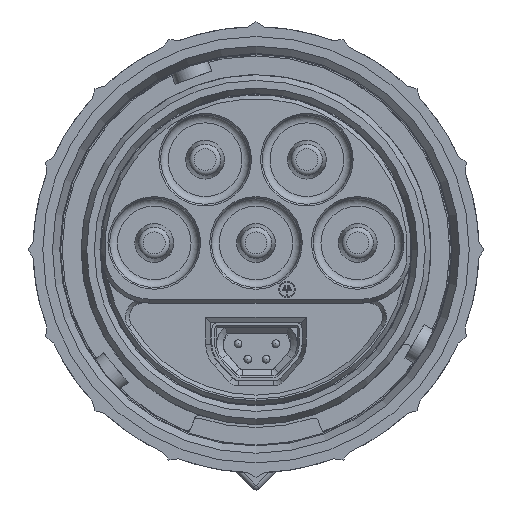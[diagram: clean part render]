
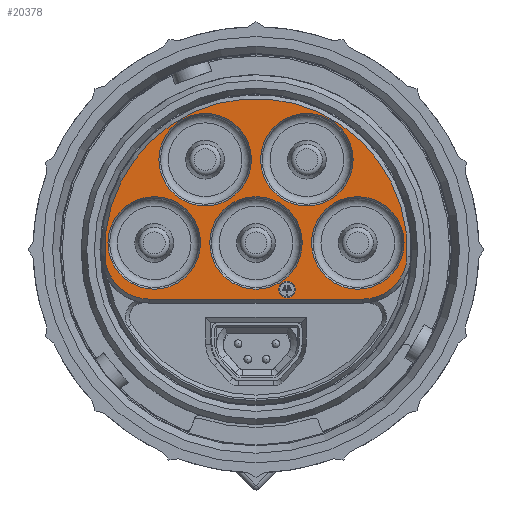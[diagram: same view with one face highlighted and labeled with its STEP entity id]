
A CAD part, front view. The second image highlights one B-rep face of the part: STEP entity #20378.
In plain terms, the highlighted planar face has unit normal (0, -1, 0).
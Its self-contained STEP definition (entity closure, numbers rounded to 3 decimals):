
#539=FACE_BOUND('',#6916,.T.);
#540=FACE_BOUND('',#6917,.T.);
#541=FACE_BOUND('',#6918,.T.);
#542=FACE_BOUND('',#6919,.T.);
#543=FACE_BOUND('',#6920,.T.);
#544=FACE_BOUND('',#6921,.T.);
#2643=LINE('',#35720,#4786);
#4786=VECTOR('',#26263,10.);
#5827=FACE_OUTER_BOUND('',#6915,.T.);
#6915=EDGE_LOOP('',(#17238,#17239,#17240,#17241));
#6916=EDGE_LOOP('',(#17242));
#6917=EDGE_LOOP('',(#17243));
#6918=EDGE_LOOP('',(#17244));
#6919=EDGE_LOOP('',(#17245));
#6920=EDGE_LOOP('',(#17246));
#6921=EDGE_LOOP('',(#17247));
#7292=CIRCLE('',#21632,0.85);
#7294=CIRCLE('',#21650,15.596);
#7295=CIRCLE('',#21651,4.596);
#7296=CIRCLE('',#21652,4.596);
#7297=CIRCLE('',#21653,4.773);
#7298=CIRCLE('',#21654,4.773);
#7299=CIRCLE('',#21655,4.773);
#7300=CIRCLE('',#21656,4.773);
#7301=CIRCLE('',#21657,4.773);
#9126=VERTEX_POINT('',#35633);
#9152=VERTEX_POINT('',#35714);
#9153=VERTEX_POINT('',#35715);
#9154=VERTEX_POINT('',#35717);
#9155=VERTEX_POINT('',#35719);
#9156=VERTEX_POINT('',#35722);
#9157=VERTEX_POINT('',#35724);
#9158=VERTEX_POINT('',#35726);
#9159=VERTEX_POINT('',#35728);
#9160=VERTEX_POINT('',#35730);
#11838=EDGE_CURVE('',#9126,#9126,#7292,.T.);
#11877=EDGE_CURVE('',#9152,#9153,#7294,.T.);
#11878=EDGE_CURVE('',#9154,#9152,#7295,.T.);
#11879=EDGE_CURVE('',#9155,#9154,#2643,.T.);
#11880=EDGE_CURVE('',#9153,#9155,#7296,.T.);
#11881=EDGE_CURVE('',#9156,#9156,#7297,.T.);
#11882=EDGE_CURVE('',#9157,#9157,#7298,.T.);
#11883=EDGE_CURVE('',#9158,#9158,#7299,.T.);
#11884=EDGE_CURVE('',#9159,#9159,#7300,.T.);
#11885=EDGE_CURVE('',#9160,#9160,#7301,.T.);
#17238=ORIENTED_EDGE('',*,*,#11877,.F.);
#17239=ORIENTED_EDGE('',*,*,#11878,.F.);
#17240=ORIENTED_EDGE('',*,*,#11879,.F.);
#17241=ORIENTED_EDGE('',*,*,#11880,.F.);
#17242=ORIENTED_EDGE('',*,*,#11881,.F.);
#17243=ORIENTED_EDGE('',*,*,#11882,.F.);
#17244=ORIENTED_EDGE('',*,*,#11883,.F.);
#17245=ORIENTED_EDGE('',*,*,#11884,.F.);
#17246=ORIENTED_EDGE('',*,*,#11885,.F.);
#17247=ORIENTED_EDGE('',*,*,#11838,.T.);
#18352=PLANE('',#21649);
#20378=ADVANCED_FACE('',(#5827,#539,#540,#541,#542,#543,#544),#18352,.T.);
#21632=AXIS2_PLACEMENT_3D('',#35634,#26186,#26187);
#21649=AXIS2_PLACEMENT_3D('',#35713,#26257,#26258);
#21650=AXIS2_PLACEMENT_3D('',#35716,#26259,#26260);
#21651=AXIS2_PLACEMENT_3D('',#35718,#26261,#26262);
#21652=AXIS2_PLACEMENT_3D('',#35721,#26264,#26265);
#21653=AXIS2_PLACEMENT_3D('',#35723,#26266,#26267);
#21654=AXIS2_PLACEMENT_3D('',#35725,#26268,#26269);
#21655=AXIS2_PLACEMENT_3D('',#35727,#26270,#26271);
#21656=AXIS2_PLACEMENT_3D('',#35729,#26272,#26273);
#21657=AXIS2_PLACEMENT_3D('',#35731,#26274,#26275);
#26186=DIRECTION('center_axis',(0.,1.,0.));
#26187=DIRECTION('ref_axis',(1.,0.,0.));
#26257=DIRECTION('center_axis',(0.,-1.,0.));
#26258=DIRECTION('ref_axis',(-1.,0.,0.));
#26259=DIRECTION('center_axis',(0.,1.,0.));
#26260=DIRECTION('ref_axis',(1.,0.,0.));
#26261=DIRECTION('center_axis',(0.,1.,0.));
#26262=DIRECTION('ref_axis',(-0.691,0.,-0.723));
#26263=DIRECTION('',(-1.,0.,0.));
#26264=DIRECTION('center_axis',(0.,1.,0.));
#26265=DIRECTION('ref_axis',(0.691,0.,-0.723));
#26266=DIRECTION('center_axis',(0.,-1.,0.));
#26267=DIRECTION('ref_axis',(1.,0.,0.));
#26268=DIRECTION('center_axis',(0.,-1.,0.));
#26269=DIRECTION('ref_axis',(1.,0.,0.));
#26270=DIRECTION('center_axis',(0.,-1.,0.));
#26271=DIRECTION('ref_axis',(1.,0.,0.));
#26272=DIRECTION('center_axis',(0.,-1.,0.));
#26273=DIRECTION('ref_axis',(1.,0.,0.));
#26274=DIRECTION('center_axis',(0.,-1.,0.));
#26275=DIRECTION('ref_axis',(1.,0.,0.));
#35633=CARTESIAN_POINT('',(2.35,-39.3,-4.1));
#35634=CARTESIAN_POINT('Origin',(3.2,-39.3,-4.1));
#35713=CARTESIAN_POINT('Origin',(0.,-39.3,0.));
#35714=CARTESIAN_POINT('',(-15.58,-39.3,-0.709));
#35715=CARTESIAN_POINT('',(15.58,-39.3,-0.709));
#35716=CARTESIAN_POINT('Origin',(0.,-39.3,0.));
#35717=CARTESIAN_POINT('',(-10.989,-39.3,-5.096));
#35718=CARTESIAN_POINT('Origin',(-10.989,-39.3,-0.5));
#35719=CARTESIAN_POINT('',(10.989,-39.3,-5.096));
#35720=CARTESIAN_POINT('',(-7.512,-39.3,-5.096));
#35721=CARTESIAN_POINT('Origin',(10.989,-39.3,-0.5));
#35722=CARTESIAN_POINT('',(5.727,-39.3,0.7));
#35723=CARTESIAN_POINT('Origin',(10.5,-39.3,0.7));
#35724=CARTESIAN_POINT('',(-15.273,-39.3,0.7));
#35725=CARTESIAN_POINT('Origin',(-10.5,-39.3,0.7));
#35726=CARTESIAN_POINT('',(-4.773,-39.3,0.7));
#35727=CARTESIAN_POINT('Origin',(0.,-39.3,0.7));
#35728=CARTESIAN_POINT('',(-10.023,-39.3,9.293));
#35729=CARTESIAN_POINT('Origin',(-5.25,-39.3,9.293));
#35730=CARTESIAN_POINT('',(0.477,-39.3,9.293));
#35731=CARTESIAN_POINT('Origin',(5.25,-39.3,9.293));
